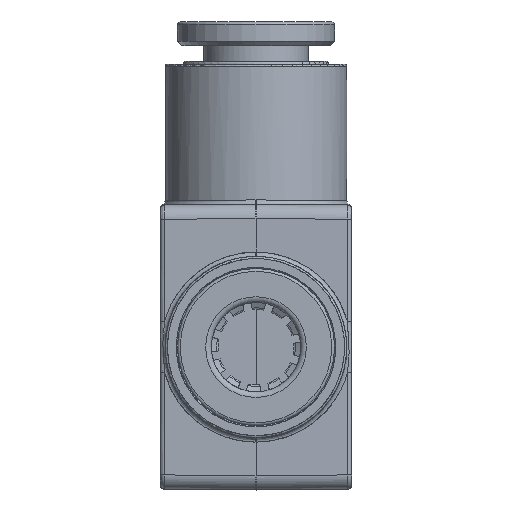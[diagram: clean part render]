
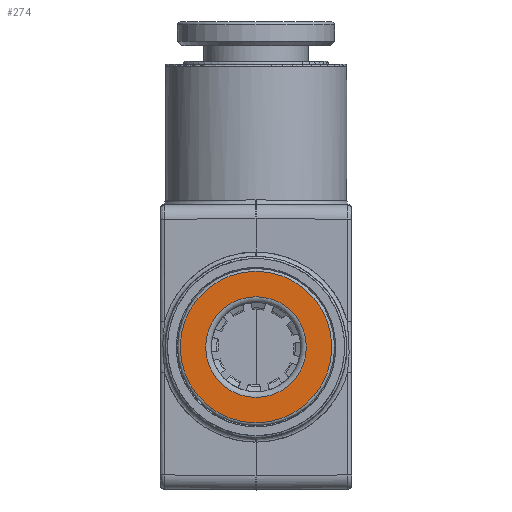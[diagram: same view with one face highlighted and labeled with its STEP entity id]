
A CAD part, front view. The second image highlights one B-rep face of the part: STEP entity #274.
In plain terms, the highlighted planar face has unit normal (0, -1, 0) as drawn and (0, 0, 1) by its records, which use the part's own axes.
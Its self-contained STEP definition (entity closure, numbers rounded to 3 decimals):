
#274=ADVANCED_FACE('',(#1169,#1170),#1171,.T.);
#1169=FACE_BOUND('',#3120,.T.);
#1170=FACE_OUTER_BOUND('',#3121,.T.);
#1171=PLANE('',#3122);
#3120=EDGE_LOOP('',(#7958));
#3121=EDGE_LOOP('',(#7959));
#3122=AXIS2_PLACEMENT_3D('',#7960,#7961,#7962);
#7958=ORIENTED_EDGE('',*,*,#14841,.T.);
#7959=ORIENTED_EDGE('',*,*,#14842,.F.);
#7960=CARTESIAN_POINT('',(56.829,0.0,1.65));
#7961=DIRECTION('',(0.0,0.,1.0));
#7962=DIRECTION('',(0.0,-1.0,0.));
#14841=EDGE_CURVE('',#19338,#19338,#19339,.T.);
#14842=EDGE_CURVE('',#19340,#19340,#19341,.T.);
#19338=VERTEX_POINT('',#28322);
#19339=CIRCLE('',#28323,3.525);
#19340=VERTEX_POINT('',#28324);
#19341=CIRCLE('',#28325,5.3);
#28322=CARTESIAN_POINT('',(55.054,0.0,1.65));
#28323=AXIS2_PLACEMENT_3D('',#60485,#60486,#60487);
#28324=CARTESIAN_POINT('',(56.829,0.0,1.65));
#28325=AXIS2_PLACEMENT_3D('',#60488,#60489,#60490);
#60485=CARTESIAN_POINT('',(51.529,0.0,1.65));
#60486=DIRECTION('',(0.0,0.,-1.0));
#60487=DIRECTION('',(0.0,1.0,0.));
#60488=CARTESIAN_POINT('',(51.529,0.0,1.65));
#60489=DIRECTION('',(0.0,0.,-1.0));
#60490=DIRECTION('',(0.0,1.0,0.));
